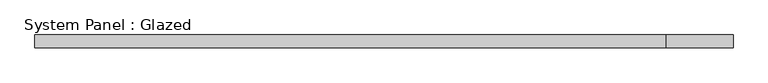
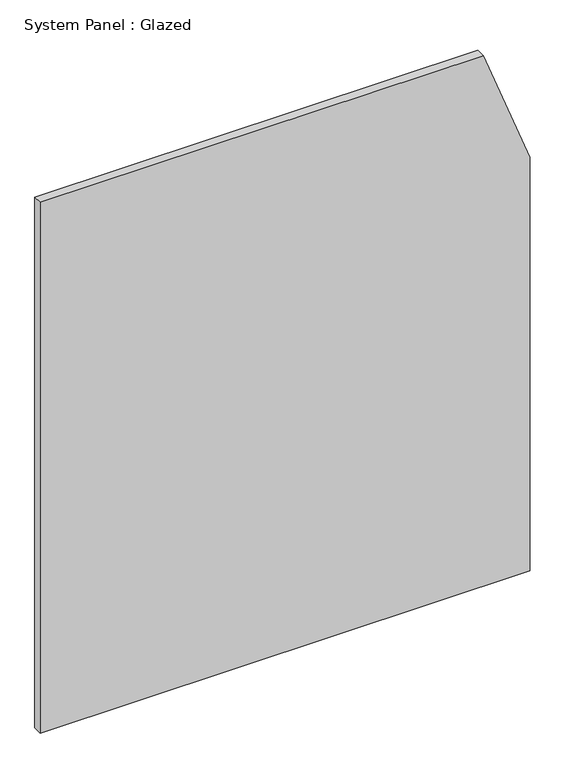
"""IFC4 building model written with IfcOpenShell, lengths in millimetres: plate geometry, System Panel : Glazed."""

from ifc_helpers import new_model, si_unit, point, frame, frame_2d, origin, place, context, project, spatial, polyline, circle_curve, trimmed, segment, composite_curve, outline, extrude, source, transform, mapped, element, save


def system_panel_glazed_8a8beb79(model_context):
    return source(origin(), model_context, "Body", "SweptSolid", [
        extrude(outline(composite_curve([segment(polyline([(0.0, -679.1666667), (0.0, 679.1666667), (1210.4036132, 679.1666667)]), True, "CONTINUOUS"), segment(trimmed(circle_curve(frame_2d((444.8347701, -1868.3822726)), 2660.0942185), [point((1210.4036132, 679.1666667))], [point((1553.9731009, 549.4501067))], False, "CARTESIAN"), True, "CONTINUOUS"), segment(polyline([(1553.9731009, 549.4501067), (1553.9731009, -679.1666667), (0.0, -679.1666667)]), True, "CONTINUOUS")], self_intersect=False)), frame((0.0, 24.5, 0.0), z_axis=(0.0, 1.0, 0.0), x_axis=(0.0, 0.0, 1.0)), (0.0, 0.0, 1.0), 25.0),
    ])


if __name__ == "__main__":
    model = new_model("IFC4")
    model_context = context("Model", 3, world=origin())
    ifc_project = project(units=[si_unit("LENGTHUNIT", "METRE", prefix="MILLI")], contexts=[model_context])
    site = spatial("IfcSite", under=ifc_project)
    building = spatial("IfcBuilding", under=site)
    placement = place(None, origin())
    system_panel_glazed_shape = system_panel_glazed_8a8beb79(model_context)
    element("IfcPlate", 1, ObjectType="System Panel : Glazed", at=placement, inside=building, context=model_context, shape_type="MappedRepresentation", body=[
        mapped(system_panel_glazed_shape, transform((0.0, 0.0, 0.0), x_axis=(1.0, 0.0, 0.0), y_axis=(0.0, 1.0, 0.0), z_axis=(0.0, 0.0, 1.0))),
    ])
    save(model, "model.ifc")
